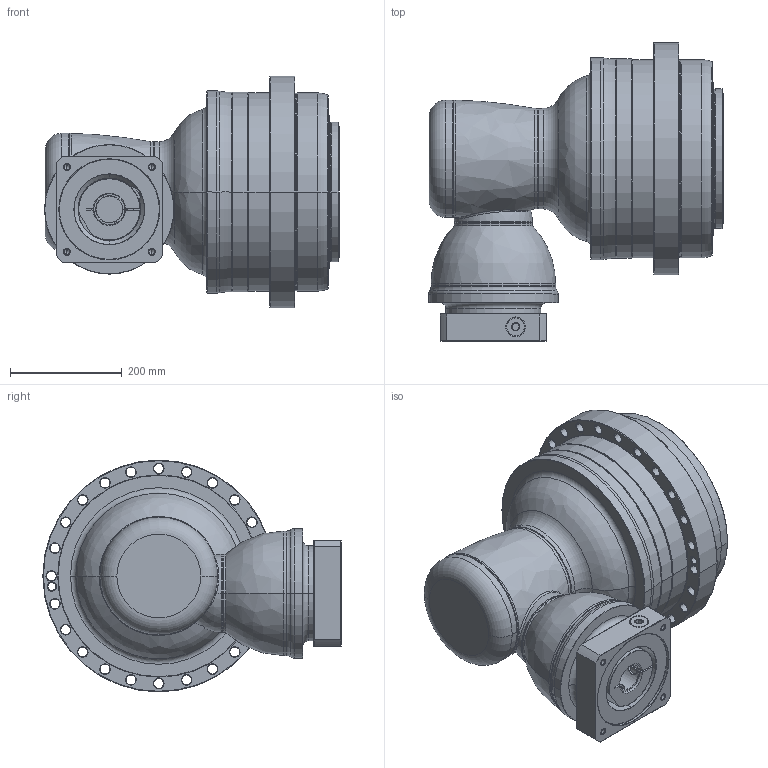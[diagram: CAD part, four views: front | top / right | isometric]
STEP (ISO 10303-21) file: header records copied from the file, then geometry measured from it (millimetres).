
FILE_DESCRIPTION((''),'2;1');
FILE_NAME('APK355_3ST_48-P0409B10201_ASM','2018-11-21T',('D00080'),(''),'PRO/ENGINEER BY PARAMETRIC TECHNOLOGY CORPORATION, 2015240','PRO/ENGINEER BY PARAMETRIC TECHNOLOGY CORPORATION, 2015240','');
FILE_SCHEMA(('CONFIG_CONTROL_DESIGN'));
Length unit declared in the file: millimetre
Products named in the file (13): P1008600002; P1315600001; P1007601001; P1318610401; P1821110001; P0276101003; P0357101103; P1222100001; P0503B00016; P0912654001; P0409B10201; 21711426021; APK355_3ST_48-P0409B10201_ASM
Assembly tree (12 placements, depth 2):
  APK355_3ST_48-P0409B10201_ASM
    P1008600002
    P1315600001
    P1007601001
    P1318610401
    P1821110001
    P0276101003
    P0357101103
    P1222100001
    P0503B00016
    P0912654001
    P0409B10201
    21711426021
Bounding box: 528 x 534 x 415 mm (x, y, z)
Volume: 43138085.9 mm3; surface area: 2167620 mm2
Topology: 13 solids, 40 shells, 809 faces, 1843 edges, 1107 vertices
Faces by surface type: cylinder 322, cone 230, plane 130, torus 94, bspline 31, sphere 2
Entity records: 29384 total; most frequent: CARTESIAN_POINT 10533, DIRECTION 4339, ORIENTED_EDGE 3488, AXIS2_PLACEMENT_3D 1861, EDGE_CURVE 1799, VERTEX_POINT 1107, CIRCLE 1046, EDGE_LOOP 968
